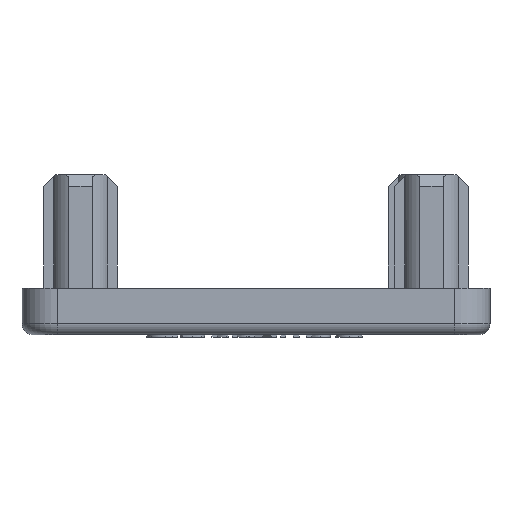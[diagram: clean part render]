
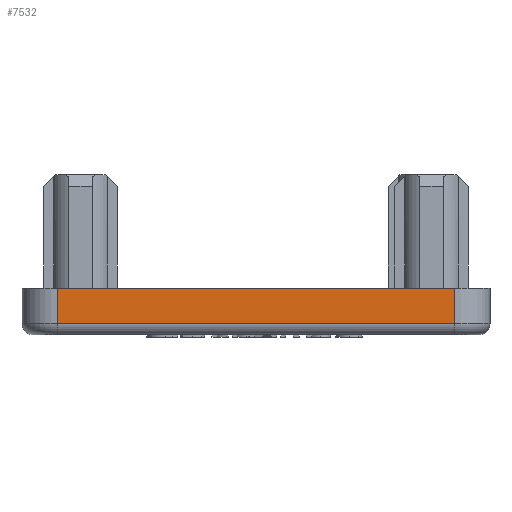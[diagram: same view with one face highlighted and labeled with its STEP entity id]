
A CAD part, left-side view. The second image highlights one B-rep face of the part: STEP entity #7532.
In plain terms, the highlighted planar face has unit normal (-1, 0, 0).
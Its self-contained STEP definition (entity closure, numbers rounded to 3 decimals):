
#7311=CARTESIAN_POINT('',(-59.645,-22.927,1.0));
#7312=VERTEX_POINT('',#7311);
#7363=CARTESIAN_POINT('',(-59.645,11.073,1.0));
#7364=VERTEX_POINT('',#7363);
#7374=CARTESIAN_POINT('',(-59.645,-22.927,1.0));
#7375=DIRECTION('',(0.0,1.0,0.0));
#7376=VECTOR('',#7375,34.);
#7377=LINE('',#7374,#7376);
#7378=EDGE_CURVE('',#7312,#7364,#7377,.T.);
#7483=CARTESIAN_POINT('',(-59.645,11.073,4.0));
#7484=VERTEX_POINT('',#7483);
#7485=CARTESIAN_POINT('',(-59.645,11.073,1.0));
#7486=DIRECTION('',(0.0,0.0,1.0));
#7487=VECTOR('',#7486,3.0);
#7488=LINE('',#7485,#7487);
#7489=EDGE_CURVE('',#7364,#7484,#7488,.T.);
#7509=CARTESIAN_POINT('',(-59.645,-22.927,0.0));
#7510=DIRECTION('',(-1.0,0.0,0.0));
#7511=DIRECTION('',(0.0,0.0,1.0));
#7512=AXIS2_PLACEMENT_3D('',#7509,#7510,#7511);
#7513=PLANE('',#7512);
#7514=ORIENTED_EDGE('',*,*,#7378,.F.);
#7515=CARTESIAN_POINT('',(-59.645,-22.927,4.0));
#7516=VERTEX_POINT('',#7515);
#7517=CARTESIAN_POINT('',(-59.645,-22.927,1.0));
#7518=DIRECTION('',(0.0,0.0,1.0));
#7519=VECTOR('',#7518,3.0);
#7520=LINE('',#7517,#7519);
#7521=EDGE_CURVE('',#7312,#7516,#7520,.T.);
#7522=ORIENTED_EDGE('',*,*,#7521,.T.);
#7523=CARTESIAN_POINT('',(-59.645,-22.927,4.0));
#7524=DIRECTION('',(0.0,1.0,0.0));
#7525=VECTOR('',#7524,34.);
#7526=LINE('',#7523,#7525);
#7527=EDGE_CURVE('',#7516,#7484,#7526,.T.);
#7528=ORIENTED_EDGE('',*,*,#7527,.T.);
#7529=ORIENTED_EDGE('',*,*,#7489,.F.);
#7530=EDGE_LOOP('',(#7514,#7522,#7528,#7529));
#7531=FACE_OUTER_BOUND('',#7530,.T.);
#7532=ADVANCED_FACE('',(#7531),#7513,.T.);
